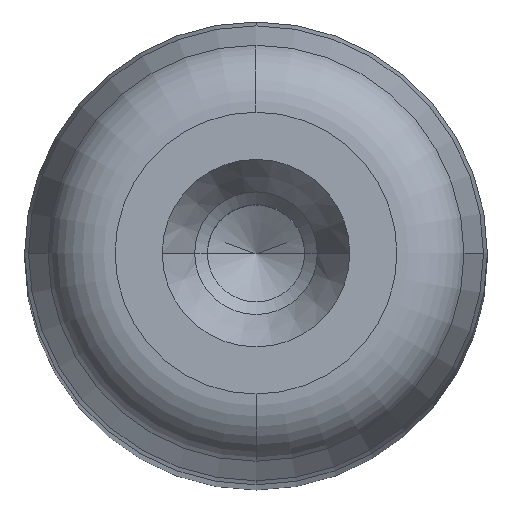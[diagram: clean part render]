
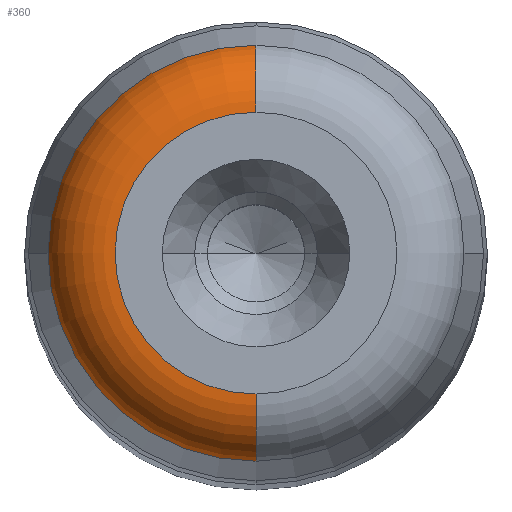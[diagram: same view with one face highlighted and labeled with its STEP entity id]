
A CAD part, top view. The second image highlights one B-rep face of the part: STEP entity #360.
In plain terms, the highlighted toroidal (fillet/blend) face has major radius 6.09 mm and minor radius 3 mm.
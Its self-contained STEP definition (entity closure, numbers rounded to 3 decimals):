
#308=CARTESIAN_POINT('',(0.0,137.0,0.0));
#309=DIRECTION('',(0.0,1.0,0.0));
#310=DIRECTION('',(0.0,0.0,1.0));
#311=AXIS2_PLACEMENT_3D('',#308,#309,#310);
#312=TOROIDAL_SURFACE('',#311,6.09,3.0);
#313=CARTESIAN_POINT('',(0.0,140.0,6.09));
#314=VERTEX_POINT('',#313);
#315=CARTESIAN_POINT('',(0.0,137.776,8.988));
#316=VERTEX_POINT('',#315);
#317=CARTESIAN_POINT('',(0.0,137.0,6.09));
#318=DIRECTION('',(1.0,0.0,0.0));
#319=DIRECTION('',(0.0,0.0,1.0));
#320=AXIS2_PLACEMENT_3D('',#317,#318,#319);
#321=CIRCLE('',#320,3.);
#322=EDGE_CURVE('',#314,#316,#321,.T.);
#323=ORIENTED_EDGE('',*,*,#322,.F.);
#324=CARTESIAN_POINT('',(0.,140.0,-6.09));
#325=VERTEX_POINT('',#324);
#326=CARTESIAN_POINT('',(0.0,140.0,0.0));
#327=DIRECTION('',(0.0,1.0,0.0));
#328=DIRECTION('',(1.0,0.0,0.0));
#329=AXIS2_PLACEMENT_3D('',#326,#327,#328);
#330=CIRCLE('',#329,6.09);
#331=EDGE_CURVE('',#325,#314,#330,.T.);
#332=ORIENTED_EDGE('',*,*,#331,.F.);
#333=CARTESIAN_POINT('',(0.,137.776,-8.988));
#334=VERTEX_POINT('',#333);
#335=CARTESIAN_POINT('',(0.,137.0,-6.09));
#336=DIRECTION('',(-1.0,0.0,0.0));
#337=DIRECTION('',(0.0,0.0,-1.0));
#338=AXIS2_PLACEMENT_3D('',#335,#336,#337);
#339=CIRCLE('',#338,3.);
#340=EDGE_CURVE('',#325,#334,#339,.T.);
#341=ORIENTED_EDGE('',*,*,#340,.T.);
#342=CARTESIAN_POINT('',(-8.988,137.776,0.));
#343=VERTEX_POINT('',#342);
#344=CARTESIAN_POINT('',(0.0,137.776,0.0));
#345=DIRECTION('',(0.0,1.0,0.0));
#346=DIRECTION('',(1.0,0.0,0.0));
#347=AXIS2_PLACEMENT_3D('',#344,#345,#346);
#348=CIRCLE('',#347,8.988);
#349=EDGE_CURVE('',#334,#343,#348,.T.);
#350=ORIENTED_EDGE('',*,*,#349,.T.);
#351=CARTESIAN_POINT('',(0.0,137.776,0.0));
#352=DIRECTION('',(0.0,1.0,0.0));
#353=DIRECTION('',(1.0,0.0,0.0));
#354=AXIS2_PLACEMENT_3D('',#351,#352,#353);
#355=CIRCLE('',#354,8.988);
#356=EDGE_CURVE('',#343,#316,#355,.T.);
#357=ORIENTED_EDGE('',*,*,#356,.T.);
#358=EDGE_LOOP('',(#323,#332,#341,#350,#357));
#359=FACE_OUTER_BOUND('',#358,.T.);
#360=ADVANCED_FACE('',(#359),#312,.T.);
